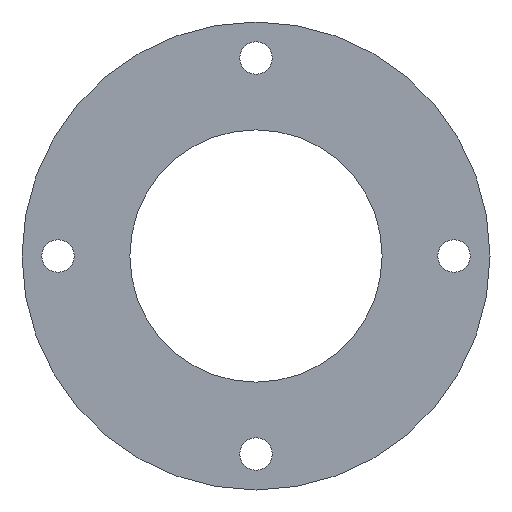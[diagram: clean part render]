
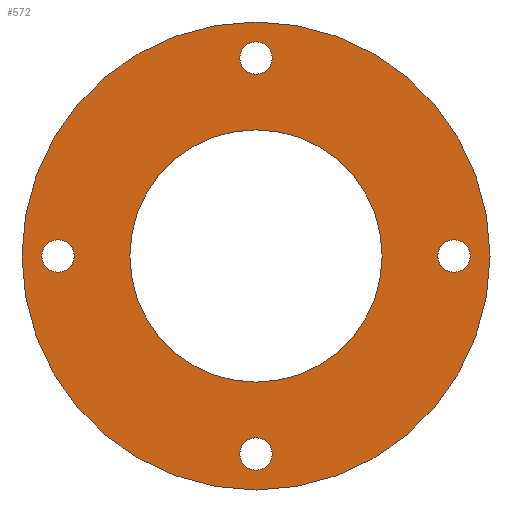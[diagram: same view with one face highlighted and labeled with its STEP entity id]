
A CAD part, front view. The second image highlights one B-rep face of the part: STEP entity #572.
In plain terms, the highlighted planar face has unit normal (0, -1, 0).
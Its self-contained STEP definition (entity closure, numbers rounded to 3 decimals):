
#2 = AXIS2_PLACEMENT_3D ( 'NONE', #43, #529, #170 ) ;
#6 = CIRCLE ( 'NONE', #324, 4.5 ) ;
#11 = CARTESIAN_POINT ( 'NONE',  ( 0., 0., 65. ) ) ;
#14 = DIRECTION ( 'NONE',  ( 0., 0., 1. ) ) ;
#19 = FACE_OUTER_BOUND ( 'NONE', #311, .T. ) ;
#25 = CIRCLE ( 'NONE', #459, 35.05 ) ;
#31 = AXIS2_PLACEMENT_3D ( 'NONE', #225, #131, #500 ) ;
#34 = VERTEX_POINT ( 'NONE', #42 ) ;
#35 = ORIENTED_EDGE ( 'NONE', *, *, #45, .T. ) ;
#42 = CARTESIAN_POINT ( 'NONE',  ( -55., 0., 4.5 ) ) ;
#43 = CARTESIAN_POINT ( 'NONE',  ( 55., 0., 0. ) ) ;
#44 = VERTEX_POINT ( 'NONE', #128 ) ;
#45 = EDGE_CURVE ( 'NONE', #134, #228, #268, .T. ) ;
#47 = DIRECTION ( 'NONE',  ( 0., 0., 1. ) ) ;
#56 = CARTESIAN_POINT ( 'NONE',  ( 0., 0., -35.05 ) ) ;
#60 = CARTESIAN_POINT ( 'NONE',  ( 0., 0., 55. ) ) ;
#73 = ORIENTED_EDGE ( 'NONE', *, *, #428, .T. ) ;
#77 = ORIENTED_EDGE ( 'NONE', *, *, #578, .T. ) ;
#78 = VERTEX_POINT ( 'NONE', #262 ) ;
#88 = EDGE_CURVE ( 'NONE', #78, #120, #127, .T. ) ;
#102 = ORIENTED_EDGE ( 'NONE', *, *, #333, .T. ) ;
#104 = CARTESIAN_POINT ( 'NONE',  ( 0., 0., 50.5 ) ) ;
#107 = FACE_BOUND ( 'NONE', #310, .T. ) ;
#109 = EDGE_LOOP ( 'NONE', ( #73, #189 ) ) ;
#111 = EDGE_LOOP ( 'NONE', ( #347, #77 ) ) ;
#120 = VERTEX_POINT ( 'NONE', #224 ) ;
#127 = CIRCLE ( 'NONE', #309, 4.5 ) ;
#128 = CARTESIAN_POINT ( 'NONE',  ( 0., 0., 35.05 ) ) ;
#131 = DIRECTION ( 'NONE',  ( 0., 1., 0. ) ) ;
#133 = EDGE_CURVE ( 'NONE', #44, #183, #277, .T. ) ;
#134 = VERTEX_POINT ( 'NONE', #11 ) ;
#137 = CARTESIAN_POINT ( 'NONE',  ( -55., 0., 0. ) ) ;
#151 = DIRECTION ( 'NONE',  ( 0., 1., 0. ) ) ;
#161 = DIRECTION ( 'NONE',  ( 0., 1., 0. ) ) ;
#162 = ORIENTED_EDGE ( 'NONE', *, *, #238, .T. ) ;
#167 = AXIS2_PLACEMENT_3D ( 'NONE', #207, #349, #254 ) ;
#168 = CIRCLE ( 'NONE', #201, 4.5 ) ;
#169 = FACE_BOUND ( 'NONE', #327, .T. ) ;
#170 = DIRECTION ( 'NONE',  ( 0., 0., 1. ) ) ;
#174 = DIRECTION ( 'NONE',  ( 0., 0., 1. ) ) ;
#181 = EDGE_CURVE ( 'NONE', #582, #34, #458, .T. ) ;
#183 = VERTEX_POINT ( 'NONE', #56 ) ;
#186 = DIRECTION ( 'NONE',  ( 0., -1., 0. ) ) ;
#187 = EDGE_CURVE ( 'NONE', #183, #44, #25, .T. ) ;
#188 = CARTESIAN_POINT ( 'NONE',  ( 55., 0., -4.5 ) ) ;
#189 = ORIENTED_EDGE ( 'NONE', *, *, #474, .T. ) ;
#190 = CIRCLE ( 'NONE', #490, 65. ) ;
#201 = AXIS2_PLACEMENT_3D ( 'NONE', #223, #550, #405 ) ;
#207 = CARTESIAN_POINT ( 'NONE',  ( 0., 0., 0. ) ) ;
#223 = CARTESIAN_POINT ( 'NONE',  ( 0., 0., -55. ) ) ;
#224 = CARTESIAN_POINT ( 'NONE',  ( 0., 0., -59.5 ) ) ;
#225 = CARTESIAN_POINT ( 'NONE',  ( -55., 0., 0. ) ) ;
#228 = VERTEX_POINT ( 'NONE', #548 ) ;
#231 = CARTESIAN_POINT ( 'NONE',  ( 0., 0., 0. ) ) ;
#233 = EDGE_CURVE ( 'NONE', #241, #532, #6, .T. ) ;
#238 = EDGE_CURVE ( 'NONE', #228, #134, #190, .T. ) ;
#241 = VERTEX_POINT ( 'NONE', #104 ) ;
#245 = ORIENTED_EDGE ( 'NONE', *, *, #181, .T. ) ;
#246 = VERTEX_POINT ( 'NONE', #188 ) ;
#254 = DIRECTION ( 'NONE',  ( 0., 0., -1. ) ) ;
#262 = CARTESIAN_POINT ( 'NONE',  ( 0., 0., -50.5 ) ) ;
#268 = CIRCLE ( 'NONE', #167, 65. ) ;
#271 = CARTESIAN_POINT ( 'NONE',  ( 0., 0., -55. ) ) ;
#277 = CIRCLE ( 'NONE', #497, 35.05 ) ;
#278 = CARTESIAN_POINT ( 'NONE',  ( -55., 0., -4.5 ) ) ;
#282 = ORIENTED_EDGE ( 'NONE', *, *, #187, .F. ) ;
#303 = PLANE ( 'NONE',  #420 ) ;
#307 = CARTESIAN_POINT ( 'NONE',  ( 0., 0., 0. ) ) ;
#309 = AXIS2_PLACEMENT_3D ( 'NONE', #271, #318, #174 ) ;
#310 = EDGE_LOOP ( 'NONE', ( #315, #245 ) ) ;
#311 = EDGE_LOOP ( 'NONE', ( #162, #35 ) ) ;
#313 = DIRECTION ( 'NONE',  ( 0., 0., -1. ) ) ;
#315 = ORIENTED_EDGE ( 'NONE', *, *, #554, .T. ) ;
#318 = DIRECTION ( 'NONE',  ( 0., 1., 0. ) ) ;
#321 = CIRCLE ( 'NONE', #31, 4.5 ) ;
#324 = AXIS2_PLACEMENT_3D ( 'NONE', #417, #326, #561 ) ;
#326 = DIRECTION ( 'NONE',  ( 0., 1., 0. ) ) ;
#327 = EDGE_LOOP ( 'NONE', ( #282, #406 ) ) ;
#333 = EDGE_CURVE ( 'NONE', #532, #241, #375, .T. ) ;
#347 = ORIENTED_EDGE ( 'NONE', *, *, #88, .T. ) ;
#349 = DIRECTION ( 'NONE',  ( 0., -1., 0. ) ) ;
#350 = CARTESIAN_POINT ( 'NONE',  ( 55., 0., 0. ) ) ;
#357 = DIRECTION ( 'NONE',  ( 0., 0., -1. ) ) ;
#360 = EDGE_LOOP ( 'NONE', ( #102, #520 ) ) ;
#366 = CARTESIAN_POINT ( 'NONE',  ( 0., 0., 65. ) ) ;
#374 = FACE_BOUND ( 'NONE', #111, .T. ) ;
#375 = CIRCLE ( 'NONE', #509, 4.5 ) ;
#377 = DIRECTION ( 'NONE',  ( 0., 0., -1. ) ) ;
#398 = CARTESIAN_POINT ( 'NONE',  ( 0., 0., 59.5 ) ) ;
#402 = FACE_BOUND ( 'NONE', #109, .T. ) ;
#405 = DIRECTION ( 'NONE',  ( 0., 0., 1. ) ) ;
#406 = ORIENTED_EDGE ( 'NONE', *, *, #133, .F. ) ;
#408 = DIRECTION ( 'NONE',  ( 0., 1., 0. ) ) ;
#410 = CARTESIAN_POINT ( 'NONE',  ( 0., 0., 0. ) ) ;
#417 = CARTESIAN_POINT ( 'NONE',  ( 0., 0., 55. ) ) ;
#420 = AXIS2_PLACEMENT_3D ( 'NONE', #366, #408, #14 ) ;
#424 = DIRECTION ( 'NONE',  ( 0., 0., 1. ) ) ;
#428 = EDGE_CURVE ( 'NONE', #457, #246, #465, .T. ) ;
#431 = AXIS2_PLACEMENT_3D ( 'NONE', #137, #542, #47 ) ;
#443 = DIRECTION ( 'NONE',  ( 0., -1., 0. ) ) ;
#449 = AXIS2_PLACEMENT_3D ( 'NONE', #350, #161, #485 ) ;
#457 = VERTEX_POINT ( 'NONE', #531 ) ;
#458 = CIRCLE ( 'NONE', #431, 4.5 ) ;
#459 = AXIS2_PLACEMENT_3D ( 'NONE', #410, #443, #357 ) ;
#465 = CIRCLE ( 'NONE', #2, 4.5 ) ;
#474 = EDGE_CURVE ( 'NONE', #246, #457, #570, .T. ) ;
#485 = DIRECTION ( 'NONE',  ( 0., 0., 1. ) ) ;
#490 = AXIS2_PLACEMENT_3D ( 'NONE', #231, #186, #377 ) ;
#497 = AXIS2_PLACEMENT_3D ( 'NONE', #307, #551, #313 ) ;
#500 = DIRECTION ( 'NONE',  ( 0., 0., 1. ) ) ;
#509 = AXIS2_PLACEMENT_3D ( 'NONE', #60, #151, #424 ) ;
#519 = FACE_BOUND ( 'NONE', #360, .T. ) ;
#520 = ORIENTED_EDGE ( 'NONE', *, *, #233, .T. ) ;
#529 = DIRECTION ( 'NONE',  ( 0., 1., 0. ) ) ;
#531 = CARTESIAN_POINT ( 'NONE',  ( 55., 0., 4.5 ) ) ;
#532 = VERTEX_POINT ( 'NONE', #398 ) ;
#542 = DIRECTION ( 'NONE',  ( 0., 1., 0. ) ) ;
#548 = CARTESIAN_POINT ( 'NONE',  ( 0., 0., -65. ) ) ;
#550 = DIRECTION ( 'NONE',  ( 0., 1., 0. ) ) ;
#551 = DIRECTION ( 'NONE',  ( 0., -1., 0. ) ) ;
#554 = EDGE_CURVE ( 'NONE', #34, #582, #321, .T. ) ;
#561 = DIRECTION ( 'NONE',  ( 0., 0., 1. ) ) ;
#570 = CIRCLE ( 'NONE', #449, 4.5 ) ;
#572 = ADVANCED_FACE ( 'NONE', ( #374, #107, #519, #402, #169, #19 ), #303, .F. ) ;
#578 = EDGE_CURVE ( 'NONE', #120, #78, #168, .T. ) ;
#582 = VERTEX_POINT ( 'NONE', #278 ) ;
